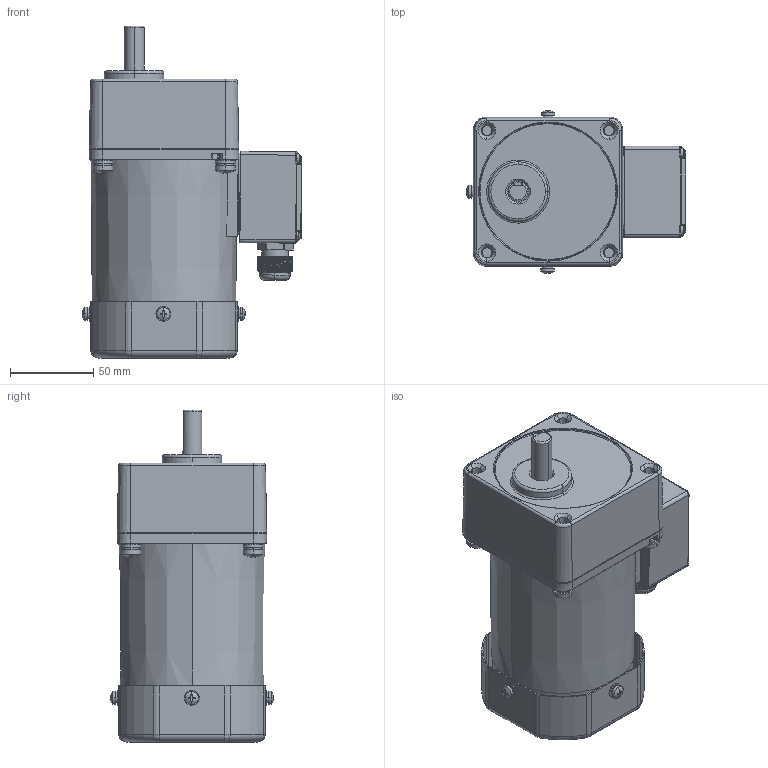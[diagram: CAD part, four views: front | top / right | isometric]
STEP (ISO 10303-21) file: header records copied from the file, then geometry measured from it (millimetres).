
FILE_DESCRIPTION (( 'STEP AP203' ), '1' );
FILE_NAME ('5IK40GN-CFT(5GN3K-18K).STEP', '2023-08-08T05:19:58', ( 'Windows User' ), ( 'P R C' ), 'SwSTEP 2.0', 'SolidWorks 2019', '' );
FILE_SCHEMA (( 'CONFIG_CONTROL_DESIGN' ));
Length unit declared in the file: millimetre
Products named in the file (16): ^____5IK40GN-CFT(5GN3K-18K)(2)_5IK40GN-CFT(5GN3K-18K); 葩璃 (6) ^_____5IK40GN-CFT(5GN3K-18K)(2)_5IK40GN-CFT(5GN3K-18K); 5GN3K-18K^5IK40GN-CFT(5GN3K-18K)(2)_5IK40GN-CFT(5GN3K-18K); ^_____5IK40GN-CFT(5GN3K-18K)(2)_5IK40GN-CFT(5GN3K-18K); 葩璃 (5) ^_____5IK40GN-CFT(5GN3K-18K)(2)_5IK40GN-CFT(5GN3K-18K); 葩璃 (3) ^_____5IK40GN-CFT(5GN3K-18K)(2)_5IK40GN-CFT(5GN3K-18K); ^5IK40GN-CFT(5GN3K-18K)(2)_5IK40GN-CFT(5GN3K-18K); 葩璃 (2) ^_____5IK40GN-CFT(5GN3K-18K)(2)_5IK40GN-CFT(5GN3K-18K); ^___5IK40GN-CFT(5GN3K-18K)(2)_5IK40GN-CFT(5GN3K-18K); ^__5IK40GN-CFT(5GN3K-18K)(2)_5IK40GN-CFT(5GN3K-18K); 葩璃 (4) ^_____5IK40GN-CFT(5GN3K-18K)(2)_5IK40GN-CFT(5GN3K-18K); ^_5IK40GN-CFT(5GN3K-18K)(2)_5IK40GN-CFT(5GN3K-18K); 5IK40GN-CFT(5GN3K-18K); 5IK40GN-CFT(5GN3K-18K)(2)^5IK40GN-CFT(5GN3K-18K)
Assembly tree (15 placements, depth 8):
  5IK40GN-CFT(5GN3K-18K)
    5IK40GN-CFT(5GN3K-18K)(2)^5IK40GN-CFT(5GN3K-18K)
      ^5IK40GN-CFT(5GN3K-18K)(2)_5IK40GN-CFT(5GN3K-18K)
        ^_5IK40GN-CFT(5GN3K-18K)(2)_5IK40GN-CFT(5GN3K-18K)
          ^__5IK40GN-CFT(5GN3K-18K)(2)_5IK40GN-CFT(5GN3K-18K)
            ^___5IK40GN-CFT(5GN3K-18K)(2)_5IK40GN-CFT(5GN3K-18K)
              ^____5IK40GN-CFT(5GN3K-18K)(2)_5IK40GN-CFT(5GN3K-18K)
                ^_____5IK40GN-CFT(5GN3K-18K)(2)_5IK40GN-CFT(5GN3K-18K)
                葩璃 (2) ^_____5IK40GN-CFT(5GN3K-18K)(2)_5IK40GN-CFT(5GN3K-18K)
                葩璃 (3) ^_____5IK40GN-CFT(5GN3K-18K)(2)_5IK40GN-CFT(5GN3K-18K)
                葩璃 (4) ^_____5IK40GN-CFT(5GN3K-18K)(2)_5IK40GN-CFT(5GN3K-18K)
                葩璃 (5) ^_____5IK40GN-CFT(5GN3K-18K)(2)_5IK40GN-CFT(5GN3K-18K)
                葩璃 (6) ^_____5IK40GN-CFT(5GN3K-18K)(2)_5IK40GN-CFT(5GN3K-18K)
            ^___5IK40GN-CFT(5GN3K-18K)(2)_5IK40GN-CFT(5GN3K-18K)
        ^_5IK40GN-CFT(5GN3K-18K)(2)_5IK40GN-CFT(5GN3K-18K)
      5GN3K-18K^5IK40GN-CFT(5GN3K-18K)(2)_5IK40GN-CFT(5GN3K-18K)
Bounding box: 132.2 x 98.11 x 200 mm (x, y, z)
Volume: 1107777.6 mm3; surface area: 150419.8 mm2
Topology: 51 solids, 51 shells, 2060 faces, 5288 edges, 3345 vertices
Faces by surface type: cylinder 818, plane 602, cone 369, torus 109, sphere 100, bspline 62
Entity records: 70387 total; most frequent: CARTESIAN_POINT 17811, DIRECTION 11424, ORIENTED_EDGE 10476, EDGE_CURVE 5238, AXIS2_PLACEMENT_3D 4706, VERTEX_POINT 3341, CIRCLE 2684, EDGE_LOOP 2197
